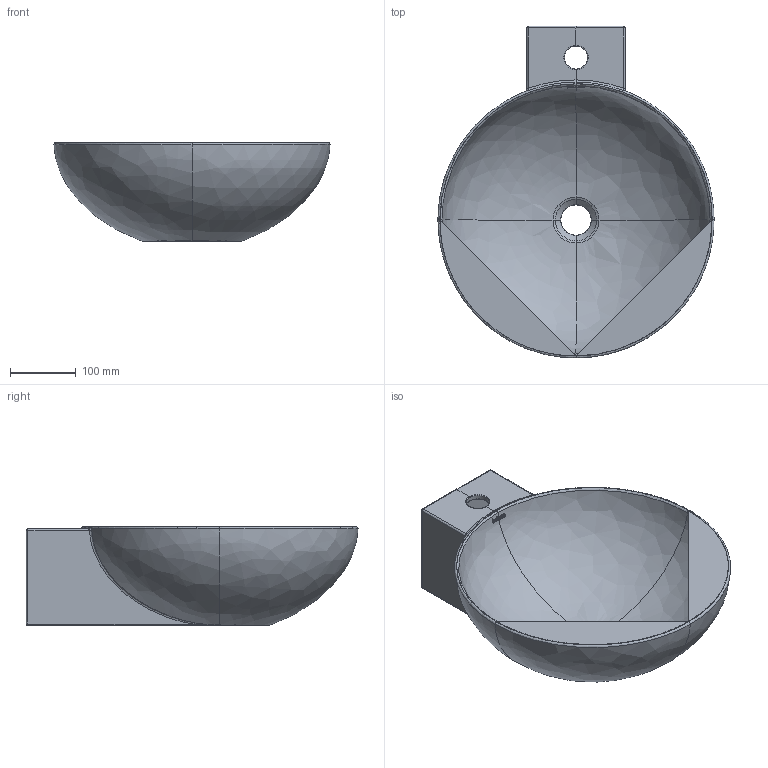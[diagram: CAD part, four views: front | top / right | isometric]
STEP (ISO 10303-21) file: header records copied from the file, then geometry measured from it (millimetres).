
FILE_DESCRIPTION(/* description */ (''),/* implementation_level */ '2;1');
FILE_NAME(/* name */ '0028_BAYONA',/* time_stamp */ '2022-12-22T09:43:56+01:00',/* author */ (''),/* organization */ (''),/* preprocessor_version */ 'ST-DEVELOPER v16.5',/* originating_system */ '',/* authorisation */ '');
FILE_SCHEMA (('CONFIG_CONTROL_DESIGN'));
Length unit declared in the file: millimetre
Products named in the file (1): Document
Bounding box: 420.02 x 504.88 x 150 mm (x, y, z)
Volume: 3484228.2 mm3; surface area: 576557.2 mm2
Topology: 7 solids, 7 shells, 209 faces, 462 edges, 263 vertices
Faces by surface type: bspline 158, plane 28, cylinder 23
Full cylindrical faces by diameter (mm): 35 x1
Entity records: 11652 total; most frequent: CARTESIAN_POINT 8885, ORIENTED_EDGE 924, EDGE_CURVE 462, VERTEX_POINT 263, EDGE_LOOP 215, ADVANCED_FACE 209, FACE_OUTER_BOUND 209, B_SPLINE_CURVE_WITH_KNOTS 184
